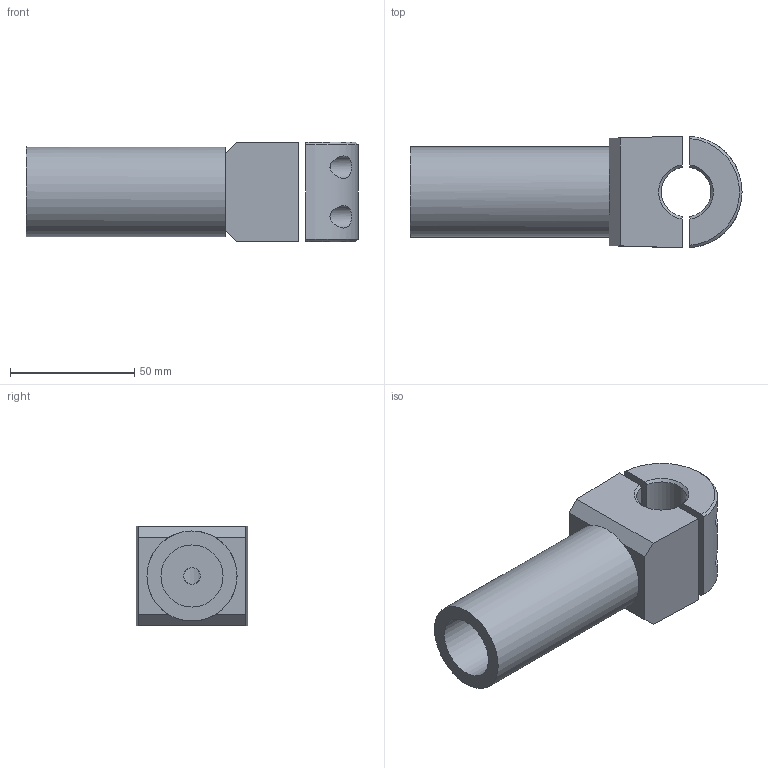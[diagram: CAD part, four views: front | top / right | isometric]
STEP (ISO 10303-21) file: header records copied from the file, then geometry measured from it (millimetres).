
FILE_DESCRIPTION( ( 'Unknown' ), '1' );
FILE_NAME( 'F:/navkite transat/construction/2016/3D ET ASSEMBLAGES/AMI/AMI 04.stp', 'Unknown', ( 'GMA' ), ( 'Unknown' ), 'XStep 1.0', 'Unknown', ' ' );
FILE_SCHEMA( ( 'automotive_design' ) );
Length unit declared in the file: millimetre
Products named in the file (2): 1; 2
Bounding box: 133.47 x 44.9 x 40 mm (x, y, z)
Volume: 113626.6 mm3; surface area: 31275 mm2
Topology: 2 solids, 2 shells, 50 faces, 116 edges, 79 vertices
Faces by surface type: cylinder 22, plane 22, cone 6
Full cylindrical faces by diameter (mm): 4.134 x4, 5.2 x4, 6.647 x1, 9 x4, 25 x1, 36.2 x1
Entity records: 2301 total; most frequent: CARTESIAN_POINT 833, DIRECTION 210, ORIENTED_EDGE 182, EDGE_CURVE 91, AXIS2_PLACEMENT_3D 88, EDGE_LOOP 84, VERTEX_POINT 69, FACE_OUTER_BOUND 65
